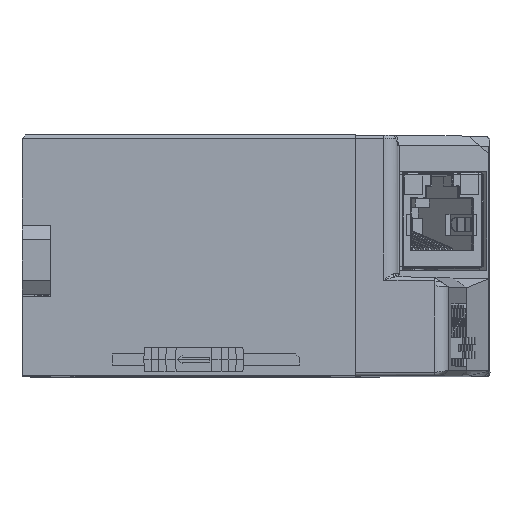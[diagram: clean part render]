
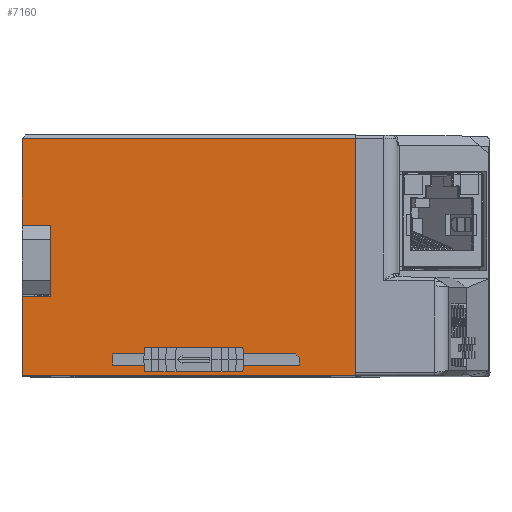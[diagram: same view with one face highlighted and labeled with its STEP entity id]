
A CAD part, top view. The second image highlights one B-rep face of the part: STEP entity #7160.
In plain terms, the highlighted planar face has unit normal (0, 0, 1).
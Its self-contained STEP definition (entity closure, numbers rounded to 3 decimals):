
#7160=ADVANCED_FACE('',(#12746,#12747),#10549,.T.);
#10549=PLANE('',#64046);
#12746=FACE_BOUND('',#13089,.T.);
#12747=FACE_BOUND('',#13090,.T.);
#13089=EDGE_LOOP('',(#16705,#16706,#16707,#16708,#16709,#16710,#16711,#16712,
#16713));
#13090=EDGE_LOOP('',(#16714,#16715,#16716,#16717,#16718,#16719,#16720));
#16705=ORIENTED_EDGE('',*,*,#41344,.T.);
#16706=ORIENTED_EDGE('',*,*,#41345,.T.);
#16707=ORIENTED_EDGE('',*,*,#41346,.F.);
#16708=ORIENTED_EDGE('',*,*,#41347,.T.);
#16709=ORIENTED_EDGE('',*,*,#41348,.T.);
#16710=ORIENTED_EDGE('',*,*,#41349,.F.);
#16711=ORIENTED_EDGE('',*,*,#41350,.T.);
#16712=ORIENTED_EDGE('',*,*,#41351,.T.);
#16713=ORIENTED_EDGE('',*,*,#41352,.F.);
#16714=ORIENTED_EDGE('',*,*,#41353,.T.);
#16715=ORIENTED_EDGE('',*,*,#41354,.F.);
#16716=ORIENTED_EDGE('',*,*,#41355,.F.);
#16717=ORIENTED_EDGE('',*,*,#41356,.T.);
#16718=ORIENTED_EDGE('',*,*,#41357,.T.);
#16719=ORIENTED_EDGE('',*,*,#41358,.T.);
#16720=ORIENTED_EDGE('',*,*,#41359,.T.);
#35255=VERTEX_POINT('',#85496);
#35256=VERTEX_POINT('',#85497);
#35257=VERTEX_POINT('',#85499);
#35258=VERTEX_POINT('',#85501);
#35259=VERTEX_POINT('',#85503);
#35260=VERTEX_POINT('',#85505);
#35261=VERTEX_POINT('',#85507);
#35262=VERTEX_POINT('',#85509);
#35263=VERTEX_POINT('',#85511);
#35264=VERTEX_POINT('',#85514);
#35265=VERTEX_POINT('',#85515);
#35266=VERTEX_POINT('',#85517);
#35267=VERTEX_POINT('',#85519);
#35268=VERTEX_POINT('',#85521);
#35269=VERTEX_POINT('',#85523);
#35270=VERTEX_POINT('',#85525);
#41344=EDGE_CURVE('',#35255,#35256,#50619,.T.);
#41345=EDGE_CURVE('',#35256,#35257,#50620,.T.);
#41346=EDGE_CURVE('',#35258,#35257,#50621,.T.);
#41347=EDGE_CURVE('',#35258,#35259,#50622,.T.);
#41348=EDGE_CURVE('',#35259,#35260,#50623,.T.);
#41349=EDGE_CURVE('',#35261,#35260,#50624,.T.);
#41350=EDGE_CURVE('',#35261,#35262,#50625,.T.);
#41351=EDGE_CURVE('',#35262,#35263,#50626,.T.);
#41352=EDGE_CURVE('',#35255,#35263,#50627,.T.);
#41353=EDGE_CURVE('',#35264,#35265,#50628,.T.);
#41354=EDGE_CURVE('',#35266,#35265,#50629,.T.);
#41355=EDGE_CURVE('',#35267,#35266,#50630,.T.);
#41356=EDGE_CURVE('',#35267,#35268,#50631,.T.);
#41357=EDGE_CURVE('',#35268,#35269,#50632,.T.);
#41358=EDGE_CURVE('',#35269,#35270,#50633,.T.);
#41359=EDGE_CURVE('',#35270,#35264,#50634,.T.);
#50619=LINE('',#85495,#57332);
#50620=LINE('',#85498,#57333);
#50621=LINE('',#85500,#57334);
#50622=LINE('',#85502,#57335);
#50623=LINE('',#85504,#57336);
#50624=LINE('',#85506,#57337);
#50625=LINE('',#85508,#57338);
#50626=LINE('',#85510,#57339);
#50627=LINE('',#85512,#57340);
#50628=LINE('',#85513,#57341);
#50629=LINE('',#85516,#57342);
#50630=LINE('',#85518,#57343);
#50631=LINE('',#85520,#57344);
#50632=LINE('',#85522,#57345);
#50633=LINE('',#85524,#57346);
#50634=LINE('',#85526,#57347);
#57332=VECTOR('',#68959,1.);
#57333=VECTOR('',#68960,1.);
#57334=VECTOR('',#68961,1.);
#57335=VECTOR('',#68962,1.);
#57336=VECTOR('',#68963,1.);
#57337=VECTOR('',#68964,1.);
#57338=VECTOR('',#68965,1.);
#57339=VECTOR('',#68966,1.);
#57340=VECTOR('',#68967,1.);
#57341=VECTOR('',#68968,1.);
#57342=VECTOR('',#68969,1.);
#57343=VECTOR('',#68970,1.);
#57344=VECTOR('',#68971,1.);
#57345=VECTOR('',#68972,1.);
#57346=VECTOR('',#68973,1.);
#57347=VECTOR('',#68974,1.);
#64046=AXIS2_PLACEMENT_3D('',#85527,#68975,#68976);
#68959=DIRECTION('',(0.,1.,0.));
#68960=DIRECTION('',(-1.,0.,0.));
#68961=DIRECTION('',(0.017,1.,0.));
#68962=DIRECTION('',(0.,-1.,0.));
#68963=DIRECTION('',(1.,0.,0.));
#68964=DIRECTION('',(0.,1.,0.));
#68965=DIRECTION('',(-1.,0.,0.));
#68966=DIRECTION('',(0.,-1.,0.));
#68967=DIRECTION('',(-1.,0.,0.));
#68968=DIRECTION('',(-1.,0.,0.));
#68969=DIRECTION('',(0.017,-1.,0.));
#68970=DIRECTION('',(-0.017,-1.,0.));
#68971=DIRECTION('',(1.,0.,0.));
#68972=DIRECTION('',(0.707,-0.707,0.));
#68973=DIRECTION('',(0.017,-1.,0.));
#68974=DIRECTION('',(-0.017,-1.,0.));
#68975=DIRECTION('',(0.,0.,1.));
#68976=DIRECTION('',(-1.,0.,0.));
#85495=CARTESIAN_POINT('',(-247.544,-88.239,278.694));
#85496=CARTESIAN_POINT('',(-247.544,-88.239,278.694));
#85497=CARTESIAN_POINT('',(-247.544,-54.739,278.694));
#85498=CARTESIAN_POINT('',(-294.544,-54.739,278.694));
#85499=CARTESIAN_POINT('',(-294.526,-54.739,278.694));
#85500=CARTESIAN_POINT('',(-295.161,-91.134,278.694));
#85501=CARTESIAN_POINT('',(-294.544,-55.739,278.694));
#85502=CARTESIAN_POINT('',(-294.544,-55.739,278.694));
#85503=CARTESIAN_POINT('',(-294.544,-66.989,278.694));
#85504=CARTESIAN_POINT('',(-294.544,-66.989,278.694));
#85505=CARTESIAN_POINT('',(-290.544,-66.989,278.694));
#85506=CARTESIAN_POINT('',(-290.544,-91.625,278.694));
#85507=CARTESIAN_POINT('',(-290.544,-76.989,278.694));
#85508=CARTESIAN_POINT('',(-290.544,-76.989,278.694));
#85509=CARTESIAN_POINT('',(-294.544,-76.989,278.694));
#85510=CARTESIAN_POINT('',(-294.544,-76.989,278.694));
#85511=CARTESIAN_POINT('',(-294.544,-88.239,278.694));
#85512=CARTESIAN_POINT('',(-247.544,-88.239,278.694));
#85513=CARTESIAN_POINT('',(-247.544,-86.739,278.694));
#85514=CARTESIAN_POINT('',(-255.458,-86.739,278.694));
#85515=CARTESIAN_POINT('',(-281.73,-86.739,278.694));
#85516=CARTESIAN_POINT('',(-281.744,-85.939,278.694));
#85517=CARTESIAN_POINT('',(-281.744,-85.939,278.694));
#85518=CARTESIAN_POINT('',(-281.744,-85.939,278.694));
#85519=CARTESIAN_POINT('',(-281.73,-85.139,278.694));
#85520=CARTESIAN_POINT('',(-247.544,-85.139,278.694));
#85521=CARTESIAN_POINT('',(-255.924,-85.139,278.694));
#85522=CARTESIAN_POINT('',(-266.434,-74.63,278.694));
#85523=CARTESIAN_POINT('',(-255.449,-85.614,278.694));
#85524=CARTESIAN_POINT('',(-255.968,-55.886,278.694));
#85525=CARTESIAN_POINT('',(-255.444,-85.939,278.694));
#85526=CARTESIAN_POINT('',(-254.914,-55.61,278.694));
#85527=CARTESIAN_POINT('',(-267.044,-91.625,278.694));
